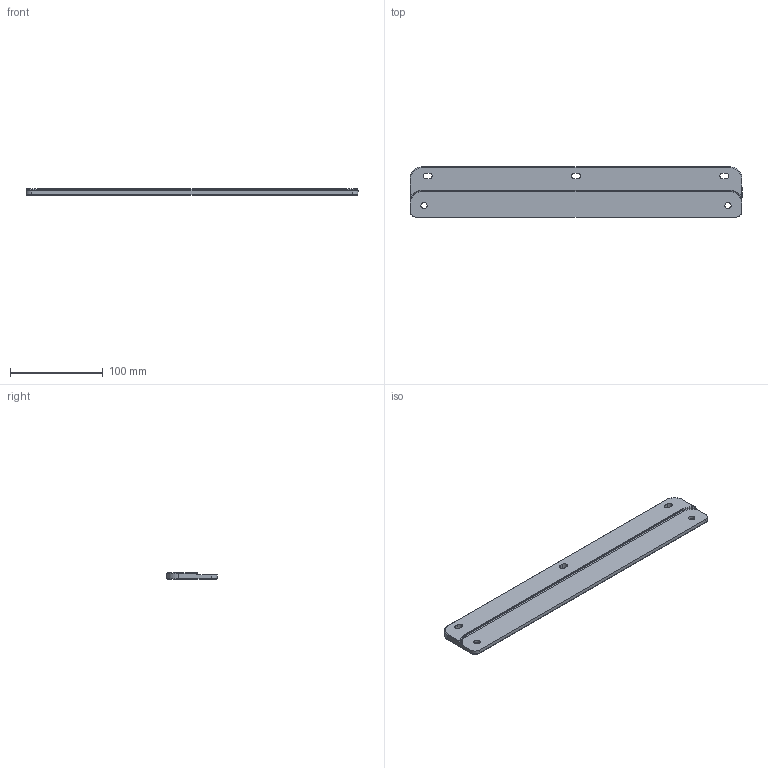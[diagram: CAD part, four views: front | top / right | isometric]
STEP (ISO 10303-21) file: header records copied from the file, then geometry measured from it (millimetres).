
FILE_DESCRIPTION (( 'STEP AP214' ), '1' );
FILE_NAME ('apolyft14.STEP', '2007-12-14T13:11:16', ( '' ), ( '' ), 'SwSTEP 2.0', 'SolidWorks 2007', '' );
FILE_SCHEMA (( 'AUTOMOTIVE_DESIGN' ));
Length unit declared in the file: inch
Products named in the file (1): apolyft14
Bounding box: 357.23 x 53.98 x 7.24 mm (x, y, z)
Volume: 111803.9 mm3; surface area: 43736.9 mm2
Topology: 1 solids, 1 shells, 62 faces, 156 edges, 94 vertices
Faces by surface type: cylinder 30, plane 14, torus 12, cone 4, sphere 2
Entity records: 1889 total; most frequent: DIRECTION 356, CARTESIAN_POINT 321, ORIENTED_EDGE 304, EDGE_CURVE 152, AXIS2_PLACEMENT_3D 143, VERTEX_POINT 92, CIRCLE 80, EDGE_LOOP 72
